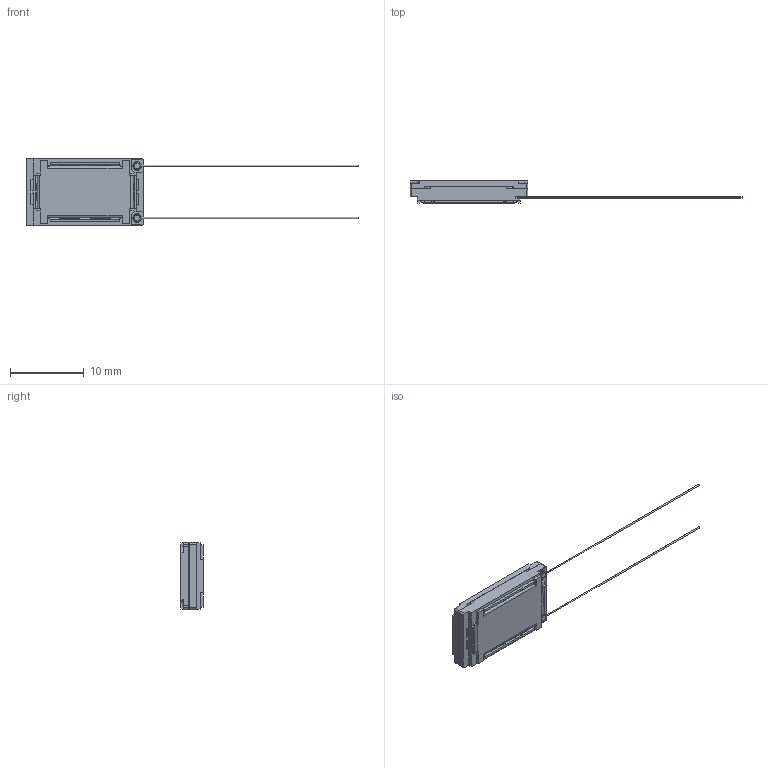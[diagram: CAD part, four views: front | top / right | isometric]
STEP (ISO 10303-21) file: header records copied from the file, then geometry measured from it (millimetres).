
FILE_DESCRIPTION (( 'STEP AP203' ), '1' );
FILE_NAME ('Same_Sky_CMS-16093-078L100.step', '2025-03-13T15:31:26', ( '' ), ( '' ), 'SwSTEP 2.0', 'SolidWorks 2024', '' );
FILE_SCHEMA (( 'CONFIG_CONTROL_DESIGN' ));
Length unit declared in the file: inch
Products named in the file (1): Same_Sky_CMS-16093-078L100
Bounding box: 45.1 x 3 x 9 mm (x, y, z)
Volume: 206.3 mm3; surface area: 991.3 mm2
Topology: 1 solids, 3 shells, 796 faces, 2059 edges, 1258 vertices
Faces by surface type: bspline 407, plane 259, cylinder 104, torus 14, cone 12
Entity records: 31952 total; most frequent: CARTESIAN_POINT 15417, ORIENTED_EDGE 4118, DIRECTION 2166, EDGE_CURVE 2059, VERTEX_POINT 1258, LINE 954, VECTOR 954, B_SPLINE_CURVE_WITH_KNOTS 889
